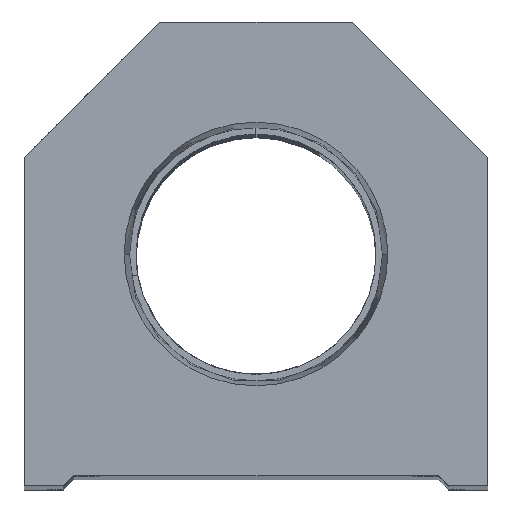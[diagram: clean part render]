
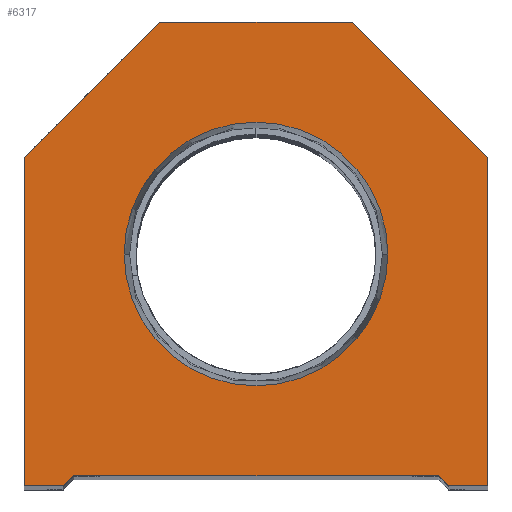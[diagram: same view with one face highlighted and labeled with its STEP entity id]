
A CAD part, top view. The second image highlights one B-rep face of the part: STEP entity #6317.
In plain terms, the highlighted planar face has unit normal (0, 0, 1).
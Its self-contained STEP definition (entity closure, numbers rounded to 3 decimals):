
#402 = CARTESIAN_POINT ( 'NONE',  ( 22.25, 31.5, 0. ) ) ;
#661 = DIRECTION ( 'NONE',  ( 0., 0., 1. ) ) ;
#1329 = VERTEX_POINT ( 'NONE', #22797 ) ;
#1554 = LINE ( 'NONE', #6975, #12864 ) ;
#1577 = VERTEX_POINT ( 'NONE', #9434 ) ;
#1718 = DIRECTION ( 'NONE',  ( 1., 0., 0. ) ) ;
#1819 = ORIENTED_EDGE ( 'NONE', *, *, #18383, .T. ) ;
#1886 = LINE ( 'NONE', #5704, #8972 ) ;
#2035 = AXIS2_PLACEMENT_3D ( 'NONE', #5403, #15670, #17878 ) ;
#2223 = VECTOR ( 'NONE', #6078, 1000. ) ;
#2730 = CARTESIAN_POINT ( 'NONE',  ( -22.25, 0., 0. ) ) ;
#3486 = FACE_OUTER_BOUND ( 'NONE', #16358, .T. ) ;
#3710 = DIRECTION ( 'NONE',  ( 0., 1., 0. ) ) ;
#3776 = VERTEX_POINT ( 'NONE', #4215 ) ;
#3812 = PLANE ( 'NONE',  #15668 ) ;
#3854 = CARTESIAN_POINT ( 'NONE',  ( 17.5, 0., 0. ) ) ;
#3931 = ORIENTED_EDGE ( 'NONE', *, *, #5030, .T. ) ;
#3998 = ORIENTED_EDGE ( 'NONE', *, *, #16115, .F. ) ;
#4049 = CARTESIAN_POINT ( 'NONE',  ( -9.25, 44.5, 0. ) ) ;
#4215 = CARTESIAN_POINT ( 'NONE',  ( 12.647, 22.25, 0. ) ) ;
#5030 = EDGE_CURVE ( 'NONE', #20461, #9877, #18066, .T. ) ;
#5403 = CARTESIAN_POINT ( 'NONE',  ( 0., 22.25, 0. ) ) ;
#5530 = CARTESIAN_POINT ( 'NONE',  ( -22.25, 0., 0. ) ) ;
#5549 = VERTEX_POINT ( 'NONE', #402 ) ;
#5678 = VECTOR ( 'NONE', #3710, 1000. ) ;
#5704 = CARTESIAN_POINT ( 'NONE',  ( 9.25, 44.5, 0. ) ) ;
#5914 = CIRCLE ( 'NONE', #18028, 12.647 ) ;
#6078 = DIRECTION ( 'NONE',  ( -0.707, -0.707, 0. ) ) ;
#6091 = LINE ( 'NONE', #12894, #19311 ) ;
#6205 = ORIENTED_EDGE ( 'NONE', *, *, #12052, .T. ) ;
#6317 = ADVANCED_FACE ( 'NONE', ( #15696, #3486 ), #3812, .T. ) ;
#6473 = EDGE_CURVE ( 'NONE', #3776, #6795, #14570, .T. ) ;
#6542 = VERTEX_POINT ( 'NONE', #12450 ) ;
#6795 = VERTEX_POINT ( 'NONE', #16676 ) ;
#6975 = CARTESIAN_POINT ( 'NONE',  ( -17.5, 1., 0. ) ) ;
#7297 = DIRECTION ( 'NONE',  ( -1., 0., 0. ) ) ;
#7614 = CARTESIAN_POINT ( 'NONE',  ( 22.25, 31.5, 0. ) ) ;
#7748 = CARTESIAN_POINT ( 'NONE',  ( -9.25, 9.25, 0. ) ) ;
#7859 = LINE ( 'NONE', #7748, #17782 ) ;
#8445 = EDGE_CURVE ( 'NONE', #9877, #13142, #21633, .T. ) ;
#8697 = ORIENTED_EDGE ( 'NONE', *, *, #6473, .F. ) ;
#8972 = VECTOR ( 'NONE', #7297, 1000. ) ;
#9122 = DIRECTION ( 'NONE',  ( 0.707, 0.707, 0. ) ) ;
#9145 = DIRECTION ( 'NONE',  ( 0.707, -0.707, 0. ) ) ;
#9155 = CARTESIAN_POINT ( 'NONE',  ( -22.25, 31.5, 0. ) ) ;
#9197 = DIRECTION ( 'NONE',  ( 0., -1., 0. ) ) ;
#9434 = CARTESIAN_POINT ( 'NONE',  ( -22.25, 31.5, 0. ) ) ;
#9509 = VECTOR ( 'NONE', #21192, 1000. ) ;
#9743 = VERTEX_POINT ( 'NONE', #19603 ) ;
#9877 = VERTEX_POINT ( 'NONE', #21089 ) ;
#10811 = CARTESIAN_POINT ( 'NONE',  ( 9.25, 9.25, 0. ) ) ;
#11935 = VECTOR ( 'NONE', #9197, 1000. ) ;
#12052 = EDGE_CURVE ( 'NONE', #13615, #1577, #13220, .T. ) ;
#12364 = LINE ( 'NONE', #12714, #5678 ) ;
#12378 = ORIENTED_EDGE ( 'NONE', *, *, #21658, .T. ) ;
#12450 = CARTESIAN_POINT ( 'NONE',  ( 9.25, 44.5, 0. ) ) ;
#12574 = LINE ( 'NONE', #5530, #11935 ) ;
#12714 = CARTESIAN_POINT ( 'NONE',  ( 22.25, 0., 0. ) ) ;
#12851 = ORIENTED_EDGE ( 'NONE', *, *, #8445, .T. ) ;
#12864 = VECTOR ( 'NONE', #19127, 1000. ) ;
#12894 = CARTESIAN_POINT ( 'NONE',  ( -17.5, 0., 0. ) ) ;
#13079 = CARTESIAN_POINT ( 'NONE',  ( 0., 22.25, 0. ) ) ;
#13142 = VERTEX_POINT ( 'NONE', #19113 ) ;
#13220 = LINE ( 'NONE', #9155, #2223 ) ;
#13615 = VERTEX_POINT ( 'NONE', #4049 ) ;
#14396 = ORIENTED_EDGE ( 'NONE', *, *, #21829, .T. ) ;
#14570 = CIRCLE ( 'NONE', #2035, 12.647 ) ;
#15430 = ORIENTED_EDGE ( 'NONE', *, *, #17649, .T. ) ;
#15668 = AXIS2_PLACEMENT_3D ( 'NONE', #21372, #17571, #1718 ) ;
#15670 = DIRECTION ( 'NONE',  ( 0., 0., 1. ) ) ;
#15696 = FACE_BOUND ( 'NONE', #18787, .T. ) ;
#15766 = VECTOR ( 'NONE', #9145, 1000. ) ;
#16115 = EDGE_CURVE ( 'NONE', #6795, #3776, #5914, .T. ) ;
#16358 = EDGE_LOOP ( 'NONE', ( #21694, #1819, #19789, #3931, #12851, #14396, #15430, #12378, #6205, #19221 ) ) ;
#16398 = DIRECTION ( 'NONE',  ( 1., 0., 0. ) ) ;
#16456 = EDGE_CURVE ( 'NONE', #9743, #20461, #1554, .T. ) ;
#16676 = CARTESIAN_POINT ( 'NONE',  ( -12.647, 22.25, 0. ) ) ;
#17571 = DIRECTION ( 'NONE',  ( 0., 0., 1. ) ) ;
#17649 = EDGE_CURVE ( 'NONE', #5549, #6542, #19891, .T. ) ;
#17782 = VECTOR ( 'NONE', #9122, 1000. ) ;
#17878 = DIRECTION ( 'NONE',  ( 1., 0., 0. ) ) ;
#18028 = AXIS2_PLACEMENT_3D ( 'NONE', #13079, #661, #16398 ) ;
#18066 = LINE ( 'NONE', #10811, #15766 ) ;
#18278 = DIRECTION ( 'NONE',  ( -0.707, 0.707, 0. ) ) ;
#18383 = EDGE_CURVE ( 'NONE', #1329, #9743, #7859, .T. ) ;
#18563 = CARTESIAN_POINT ( 'NONE',  ( 17.5, 1., 0. ) ) ;
#18787 = EDGE_LOOP ( 'NONE', ( #8697, #3998 ) ) ;
#19113 = CARTESIAN_POINT ( 'NONE',  ( 22.25, 0., 0. ) ) ;
#19127 = DIRECTION ( 'NONE',  ( 1., 0., 0. ) ) ;
#19221 = ORIENTED_EDGE ( 'NONE', *, *, #21536, .T. ) ;
#19311 = VECTOR ( 'NONE', #19833, 1000. ) ;
#19467 = EDGE_CURVE ( 'NONE', #20476, #1329, #6091, .T. ) ;
#19603 = CARTESIAN_POINT ( 'NONE',  ( -17.5, 1., 0. ) ) ;
#19789 = ORIENTED_EDGE ( 'NONE', *, *, #16456, .T. ) ;
#19833 = DIRECTION ( 'NONE',  ( 1., 0., 0. ) ) ;
#19891 = LINE ( 'NONE', #7614, #22911 ) ;
#20461 = VERTEX_POINT ( 'NONE', #18563 ) ;
#20476 = VERTEX_POINT ( 'NONE', #2730 ) ;
#21089 = CARTESIAN_POINT ( 'NONE',  ( 18.5, 0., 0. ) ) ;
#21192 = DIRECTION ( 'NONE',  ( 1., 0., 0. ) ) ;
#21372 = CARTESIAN_POINT ( 'NONE',  ( 0., 0., 0. ) ) ;
#21536 = EDGE_CURVE ( 'NONE', #1577, #20476, #12574, .T. ) ;
#21633 = LINE ( 'NONE', #3854, #9509 ) ;
#21658 = EDGE_CURVE ( 'NONE', #6542, #13615, #1886, .T. ) ;
#21694 = ORIENTED_EDGE ( 'NONE', *, *, #19467, .T. ) ;
#21829 = EDGE_CURVE ( 'NONE', #13142, #5549, #12364, .T. ) ;
#22797 = CARTESIAN_POINT ( 'NONE',  ( -18.5, 0., 0. ) ) ;
#22911 = VECTOR ( 'NONE', #18278, 1000. ) ;
